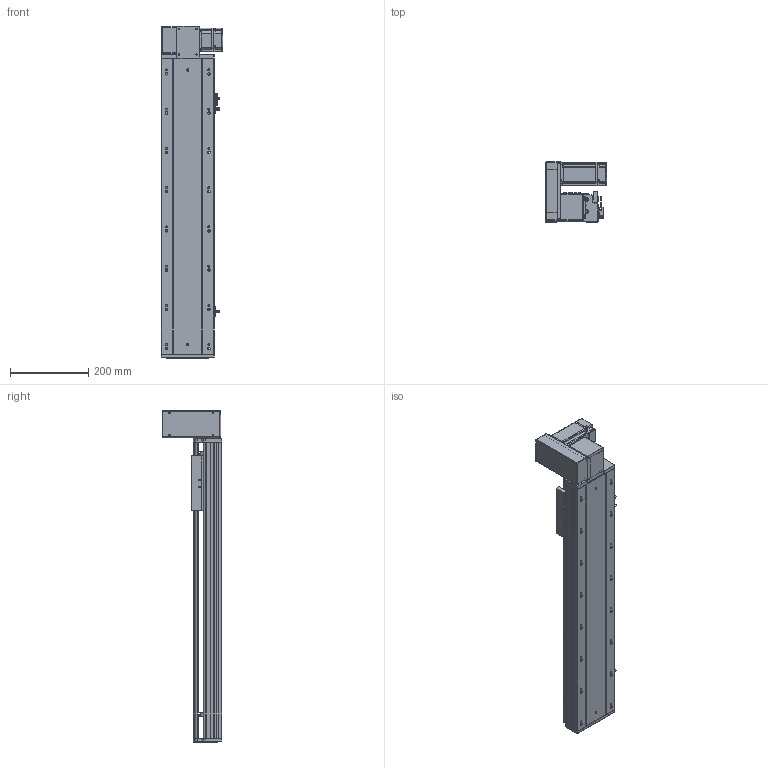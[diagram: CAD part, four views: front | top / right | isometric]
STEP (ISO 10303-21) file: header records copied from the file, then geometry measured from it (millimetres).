
FILE_DESCRIPTION (( 'STEP AP203' ), '1' );
FILE_NAME ('RY140-T-300-UL.SLDASM_500.step', '2021-03-01T07:43:07', ( '盈信电脑' ), ( '东莞市道滘镇水果街19号' ), 'SwSTEP 2.0', 'SolidWorks 2012', '' );
FILE_SCHEMA (( 'CONFIG_CONTROL_DESIGN' ));
Length unit declared in the file: millimetre
Products named in the file (18): RY140肮祭謫臏賑輸; RY140-T-300-DL倰第菁釱_500; RY140-T翋肮謫裔啣; RY140-T-300-UL.SLDASM_500; 滅袉蝶18-10; RY120-T蹟翐M4; RY120-T主同步轮轴承压盖; RY140-T萇儂欶; 侂狟400W侜督萇儂; 15; RY140-T翋肮祭謫盓傅釱; RY140-T萇儂假蚾啣; RY120-T肮祭湍揤踡輸2; 覜茼ん672; RY120-T肮祭湍揤踡輸1; RY120外置感应片(140共用）; RY140-T-300-DL倰第奻裔啣_500; RY140綴裔啣
Assembly tree (23 placements, depth 3):
  RY140-T-300-UL.SLDASM_500
    RY140-T-300-DL倰第菁釱_500
    RY140肮祭謫臏賑輸
    RY140-T-300-DL倰第奻裔啣_500
    RY140綴裔啣
    覜茼ん672  x3
    RY120外置感应片(140共用）
    RY120-T肮祭湍揤踡輸2
    RY120-T肮祭湍揤踡輸1
    RY140-T翋肮祭謫盓傅釱
    RY140-T萇儂假蚾啣
    侂狟400W侜督萇儂
      15
    RY120-T主同步轮轴承压盖
    RY120-T蹟翐M4  x4
    RY140-T萇儂欶
    滅袉蝶18-10  x2
    RY140-T翋肮謫裔啣
Bounding box: 157 x 152.5 x 846 mm (x, y, z)
Volume: 2796834.4 mm3; surface area: 1036546.1 mm2
Topology: 22 solids, 22 shells, 2619 faces, 7189 edges, 4636 vertices
Faces by surface type: plane 1385, cylinder 948, cone 186, bspline 100
Entity records: 83255 total; most frequent: CARTESIAN_POINT 20461, ORIENTED_EDGE 12930, DIRECTION 12209, EDGE_CURVE 6465, VERTEX_POINT 4235, LINE 4153, VECTOR 4153, AXIS2_PLACEMENT_3D 4028
